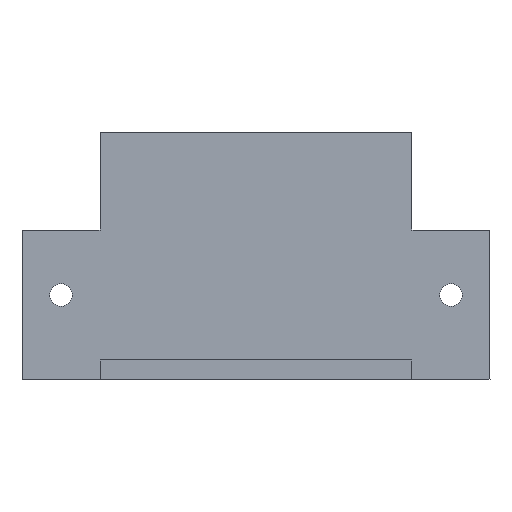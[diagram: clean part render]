
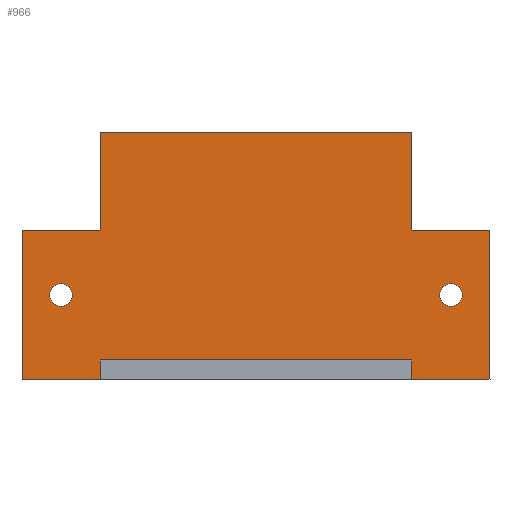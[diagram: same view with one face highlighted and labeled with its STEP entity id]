
A CAD part, front view. The second image highlights one B-rep face of the part: STEP entity #966.
In plain terms, the highlighted planar face has unit normal (0, -1, 0) as drawn and (1, 0, 0) by its records, which use the part's own axes.
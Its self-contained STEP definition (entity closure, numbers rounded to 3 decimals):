
#47=FACE_BOUND('',#167,.T.);
#48=FACE_BOUND('',#168,.T.);
#74=CIRCLE('',#1050,1.75);
#77=CIRCLE('',#1055,1.75);
#108=FACE_OUTER_BOUND('',#166,.T.);
#166=EDGE_LOOP('',(#804,#805,#806,#807,#808,#809,#810,#811,#812,#813,#814,
#815));
#167=EDGE_LOOP('',(#816));
#168=EDGE_LOOP('',(#817));
#201=LINE('',#1378,#307);
#205=LINE('',#1386,#311);
#235=LINE('',#1487,#341);
#242=LINE('',#1499,#348);
#262=LINE('',#1558,#368);
#263=LINE('',#1559,#369);
#264=LINE('',#1561,#370);
#265=LINE('',#1563,#371);
#266=LINE('',#1564,#372);
#267=LINE('',#1566,#373);
#268=LINE('',#1567,#374);
#269=LINE('',#1568,#375);
#307=VECTOR('',#1101,10.);
#311=VECTOR('',#1105,10.);
#341=VECTOR('',#1185,10.);
#348=VECTOR('',#1194,10.);
#368=VECTOR('',#1272,10.);
#369=VECTOR('',#1273,10.);
#370=VECTOR('',#1274,10.);
#371=VECTOR('',#1275,10.);
#372=VECTOR('',#1276,10.);
#373=VECTOR('',#1277,10.);
#374=VECTOR('',#1278,10.);
#375=VECTOR('',#1279,10.);
#413=VERTEX_POINT('',#1375);
#414=VERTEX_POINT('',#1377);
#417=VERTEX_POINT('',#1383);
#418=VERTEX_POINT('',#1385);
#463=VERTEX_POINT('',#1484);
#464=VERTEX_POINT('',#1486);
#468=VERTEX_POINT('',#1497);
#472=VERTEX_POINT('',#1541);
#476=VERTEX_POINT('',#1551);
#477=VERTEX_POINT('',#1556);
#478=VERTEX_POINT('',#1557);
#479=VERTEX_POINT('',#1560);
#480=VERTEX_POINT('',#1562);
#481=VERTEX_POINT('',#1565);
#505=EDGE_CURVE('',#414,#413,#201,.T.);
#509=EDGE_CURVE('',#417,#418,#205,.T.);
#561=EDGE_CURVE('',#463,#464,#235,.T.);
#568=EDGE_CURVE('',#463,#468,#242,.T.);
#589=EDGE_CURVE('',#472,#472,#74,.T.);
#594=EDGE_CURVE('',#476,#476,#77,.T.);
#596=EDGE_CURVE('',#477,#478,#262,.T.);
#597=EDGE_CURVE('',#414,#477,#263,.T.);
#598=EDGE_CURVE('',#413,#479,#264,.T.);
#599=EDGE_CURVE('',#480,#479,#265,.T.);
#600=EDGE_CURVE('',#464,#480,#266,.T.);
#601=EDGE_CURVE('',#481,#468,#267,.T.);
#602=EDGE_CURVE('',#481,#418,#268,.T.);
#603=EDGE_CURVE('',#417,#478,#269,.T.);
#804=ORIENTED_EDGE('',*,*,#596,.F.);
#805=ORIENTED_EDGE('',*,*,#597,.F.);
#806=ORIENTED_EDGE('',*,*,#505,.T.);
#807=ORIENTED_EDGE('',*,*,#598,.T.);
#808=ORIENTED_EDGE('',*,*,#599,.F.);
#809=ORIENTED_EDGE('',*,*,#600,.F.);
#810=ORIENTED_EDGE('',*,*,#561,.F.);
#811=ORIENTED_EDGE('',*,*,#568,.T.);
#812=ORIENTED_EDGE('',*,*,#601,.F.);
#813=ORIENTED_EDGE('',*,*,#602,.T.);
#814=ORIENTED_EDGE('',*,*,#509,.F.);
#815=ORIENTED_EDGE('',*,*,#603,.T.);
#816=ORIENTED_EDGE('',*,*,#594,.T.);
#817=ORIENTED_EDGE('',*,*,#589,.T.);
#922=PLANE('',#1057);
#966=ADVANCED_FACE('',(#108,#47,#48),#922,.T.);
#1050=AXIS2_PLACEMENT_3D('',#1543,#1255,#1256);
#1055=AXIS2_PLACEMENT_3D('',#1553,#1266,#1267);
#1057=AXIS2_PLACEMENT_3D('',#1555,#1270,#1271);
#1101=DIRECTION('',(0.,-1.,0.));
#1105=DIRECTION('',(0.,1.,0.));
#1185=DIRECTION('',(0.,-1.,0.));
#1194=DIRECTION('',(0.,0.,1.));
#1255=DIRECTION('center_axis',(-1.,0.,0.));
#1256=DIRECTION('ref_axis',(0.,0.,1.));
#1266=DIRECTION('center_axis',(-1.,0.,0.));
#1267=DIRECTION('ref_axis',(0.,0.,1.));
#1270=DIRECTION('center_axis',(1.,0.,0.));
#1271=DIRECTION('ref_axis',(0.,0.,1.));
#1272=DIRECTION('',(0.,1.,0.));
#1273=DIRECTION('',(0.,0.,-1.));
#1274=DIRECTION('',(0.,0.,-1.));
#1275=DIRECTION('',(0.,-1.,0.));
#1276=DIRECTION('',(0.,0.,1.));
#1277=DIRECTION('',(0.,-1.,0.));
#1278=DIRECTION('',(0.,0.,1.));
#1279=DIRECTION('',(0.,0.,-1.));
#1375=CARTESIAN_POINT('',(-10.,-32.,13.));
#1377=CARTESIAN_POINT('',(-10.,-20.,13.));
#1378=CARTESIAN_POINT('',(-10.,16.,13.));
#1383=CARTESIAN_POINT('',(-10.,28.,13.));
#1385=CARTESIAN_POINT('',(-10.,40.,13.));
#1386=CARTESIAN_POINT('',(-10.,16.,13.));
#1484=CARTESIAN_POINT('',(-10.,28.,-25.));
#1486=CARTESIAN_POINT('',(-10.,-20.,-25.));
#1487=CARTESIAN_POINT('',(-10.,28.,-25.));
#1497=CARTESIAN_POINT('',(-10.,28.,-10.));
#1499=CARTESIAN_POINT('',(-10.,28.,-25.));
#1541=CARTESIAN_POINT('',(-10.,-26.009,-1.75));
#1543=CARTESIAN_POINT('Origin',(-10.,-26.009,0.));
#1551=CARTESIAN_POINT('',(-10.,33.992,-1.75));
#1553=CARTESIAN_POINT('Origin',(-10.,33.992,0.));
#1555=CARTESIAN_POINT('Origin',(-10.,28.,-25.));
#1556=CARTESIAN_POINT('',(-10.,-20.,10.));
#1557=CARTESIAN_POINT('',(-10.,28.,10.));
#1558=CARTESIAN_POINT('',(-10.,16.,10.));
#1559=CARTESIAN_POINT('',(-10.,-20.,-7.5));
#1560=CARTESIAN_POINT('',(-10.,-32.,-10.));
#1561=CARTESIAN_POINT('',(-10.,-32.,-7.5));
#1562=CARTESIAN_POINT('',(-10.,-20.,-10.));
#1563=CARTESIAN_POINT('',(-10.,28.,-10.));
#1564=CARTESIAN_POINT('',(-10.,-20.,-25.));
#1565=CARTESIAN_POINT('',(-10.,40.,-10.));
#1566=CARTESIAN_POINT('',(-10.,28.,-10.));
#1567=CARTESIAN_POINT('',(-10.,40.,-7.5));
#1568=CARTESIAN_POINT('',(-10.,28.,-7.5));
